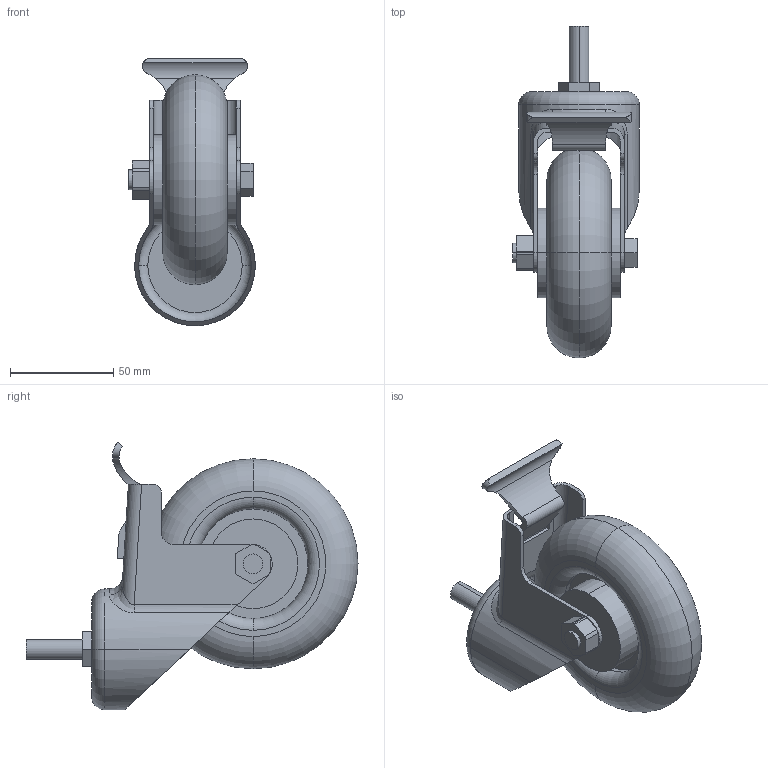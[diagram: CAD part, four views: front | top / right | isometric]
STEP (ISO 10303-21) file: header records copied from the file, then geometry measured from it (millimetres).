
FILE_DESCRIPTION (( 'STEP AP214' ), '1' );
FILE_NAME ('5.2in_500lbs_Polyurethane Swivel and Brake Caster - Threaded Rod.STEP', '2025-06-10T16:51:36', ( '' ), ( '' ), 'SwSTEP 2.0', 'SolidWorks 2023', '' );
FILE_SCHEMA (( 'AUTOMOTIVE_DESIGN' ));
Length unit declared in the file: inch
Products named in the file (1): 5.2in_500lbs_Polyurethane Swivel and Brake Caster - Threaded Rod
Bounding box: 61.34 x 160.66 x 129.4 mm (x, y, z)
Volume: 259374.3 mm3; surface area: 82038.8 mm2
Topology: 6 solids, 6 shells, 133 faces, 326 edges, 212 vertices
Faces by surface type: plane 60, cylinder 55, torus 12, bspline 6
Entity records: 4758 total; most frequent: CARTESIAN_POINT 1528, ORIENTED_EDGE 652, DIRECTION 652, EDGE_CURVE 326, AXIS2_PLACEMENT_3D 240, VERTEX_POINT 212, LINE 172, VECTOR 172
